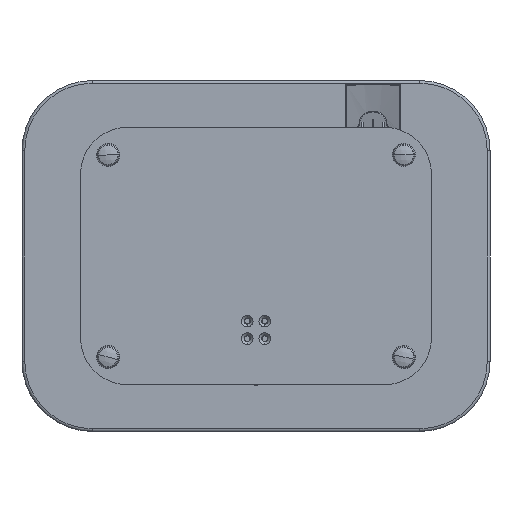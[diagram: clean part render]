
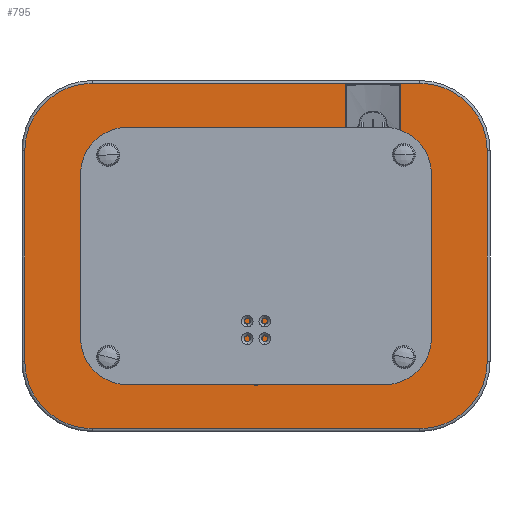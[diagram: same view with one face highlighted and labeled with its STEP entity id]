
A CAD part, front view. The second image highlights one B-rep face of the part: STEP entity #795.
In plain terms, the highlighted planar face has unit normal (0, -1, 0).
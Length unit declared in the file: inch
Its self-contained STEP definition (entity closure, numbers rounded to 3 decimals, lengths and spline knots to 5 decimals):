
#350 = DIRECTION ( 'NONE',  ( 0., 1., 0. ) ) ;
#601 = CARTESIAN_POINT ( 'NONE',  ( 9.88189, 0., 4.5 ) ) ;
#684 = CARTESIAN_POINT ( 'NONE',  ( 7., 0., 7.38189 ) ) ;
#693 = CARTESIAN_POINT ( 'NONE',  ( 0., 0., 0. ) ) ;
#795 = ADVANCED_FACE ( 'NONE', ( #11176 ), #825, .T. ) ;
#825 = PLANE ( 'NONE',  #10194 ) ;
#1071 = VERTEX_POINT ( 'NONE', #1568 ) ;
#1228 = CARTESIAN_POINT ( 'NONE',  ( -9.88189, 0., -4.5 ) ) ;
#1308 = VERTEX_POINT ( 'NONE', #10988 ) ;
#1488 = CARTESIAN_POINT ( 'NONE',  ( -7., 0., -4.5 ) ) ;
#1511 = ORIENTED_EDGE ( 'NONE', *, *, #10014, .F. ) ;
#1514 = EDGE_CURVE ( 'NONE', #1071, #1308, #6328, .T. ) ;
#1568 = CARTESIAN_POINT ( 'NONE',  ( -9.88189, 0., -4.5 ) ) ;
#1732 = ORIENTED_EDGE ( 'NONE', *, *, #10317, .F. ) ;
#1747 = AXIS2_PLACEMENT_3D ( 'NONE', #12894, #7827, #2857 ) ;
#1754 = AXIS2_PLACEMENT_3D ( 'NONE', #1488, #350, #11662 ) ;
#1879 = ORIENTED_EDGE ( 'NONE', *, *, #4152, .F. ) ;
#2090 = VERTEX_POINT ( 'NONE', #10931 ) ;
#2383 = CIRCLE ( 'NONE', #1754, 2.88189 ) ;
#2784 = ORIENTED_EDGE ( 'NONE', *, *, #12539, .F. ) ;
#2857 = DIRECTION ( 'NONE',  ( 0., 0., 1. ) ) ;
#3127 = AXIS2_PLACEMENT_3D ( 'NONE', #5498, #9608, #8577 ) ;
#3237 = EDGE_LOOP ( 'NONE', ( #12982, #6897, #1879, #2784, #1511, #1732, #9734, #6718 ) ) ;
#3566 = DIRECTION ( 'NONE',  ( -1., 0., 0. ) ) ;
#3628 = LINE ( 'NONE', #4576, #4393 ) ;
#4014 = DIRECTION ( 'NONE',  ( 0., 0., -1. ) ) ;
#4102 = CIRCLE ( 'NONE', #4530, 2.88189 ) ;
#4152 = EDGE_CURVE ( 'NONE', #2090, #10831, #3628, .T. ) ;
#4393 = VECTOR ( 'NONE', #3566, 39.37008 ) ;
#4482 = DIRECTION ( 'NONE',  ( 0., 0., 1. ) ) ;
#4530 = AXIS2_PLACEMENT_3D ( 'NONE', #4640, #6727, #4845 ) ;
#4576 = CARTESIAN_POINT ( 'NONE',  ( 7., 0., -7.38189 ) ) ;
#4640 = CARTESIAN_POINT ( 'NONE',  ( 7., 0., -4.5 ) ) ;
#4845 = DIRECTION ( 'NONE',  ( 0., 0., 1. ) ) ;
#4989 = DIRECTION ( 'NONE',  ( 0., 0., -1. ) ) ;
#5142 = EDGE_CURVE ( 'NONE', #1308, #5676, #12399, .T. ) ;
#5498 = CARTESIAN_POINT ( 'NONE',  ( -7., 0., 4.5 ) ) ;
#5676 = VERTEX_POINT ( 'NONE', #8924 ) ;
#5738 = CARTESIAN_POINT ( 'NONE',  ( -7., 0., -7.38189 ) ) ;
#5817 = CIRCLE ( 'NONE', #1747, 2.88189 ) ;
#6328 = LINE ( 'NONE', #1228, #12388 ) ;
#6718 = ORIENTED_EDGE ( 'NONE', *, *, #5142, .F. ) ;
#6727 = DIRECTION ( 'NONE',  ( 0., 1., 0. ) ) ;
#6897 = ORIENTED_EDGE ( 'NONE', *, *, #12395, .F. ) ;
#7750 = EDGE_CURVE ( 'NONE', #5676, #11209, #12629, .T. ) ;
#7827 = DIRECTION ( 'NONE',  ( 0., 1., 0. ) ) ;
#8078 = VECTOR ( 'NONE', #9588, 39.37008 ) ;
#8355 = CARTESIAN_POINT ( 'NONE',  ( -7., 0., 7.38189 ) ) ;
#8366 = LINE ( 'NONE', #12296, #8407 ) ;
#8407 = VECTOR ( 'NONE', #4014, 39.37008 ) ;
#8577 = DIRECTION ( 'NONE',  ( 0., 0., 1. ) ) ;
#8924 = CARTESIAN_POINT ( 'NONE',  ( -7., 0., 7.38189 ) ) ;
#9588 = DIRECTION ( 'NONE',  ( 1., 0., 0. ) ) ;
#9608 = DIRECTION ( 'NONE',  ( 0., 1., 0. ) ) ;
#9734 = ORIENTED_EDGE ( 'NONE', *, *, #7750, .F. ) ;
#10014 = EDGE_CURVE ( 'NONE', #12896, #11587, #8366, .T. ) ;
#10194 = AXIS2_PLACEMENT_3D ( 'NONE', #693, #12063, #4989 ) ;
#10317 = EDGE_CURVE ( 'NONE', #11209, #12896, #5817, .T. ) ;
#10831 = VERTEX_POINT ( 'NONE', #5738 ) ;
#10931 = CARTESIAN_POINT ( 'NONE',  ( 7., 0., -7.38189 ) ) ;
#10988 = CARTESIAN_POINT ( 'NONE',  ( -9.88189, 0., 4.5 ) ) ;
#11176 = FACE_OUTER_BOUND ( 'NONE', #3237, .T. ) ;
#11209 = VERTEX_POINT ( 'NONE', #684 ) ;
#11587 = VERTEX_POINT ( 'NONE', #11623 ) ;
#11623 = CARTESIAN_POINT ( 'NONE',  ( 9.88189, 0., -4.5 ) ) ;
#11662 = DIRECTION ( 'NONE',  ( 0., 0., 1. ) ) ;
#12063 = DIRECTION ( 'NONE',  ( 0., -1., 0. ) ) ;
#12296 = CARTESIAN_POINT ( 'NONE',  ( 9.88189, 0., 4.5 ) ) ;
#12388 = VECTOR ( 'NONE', #4482, 39.37008 ) ;
#12395 = EDGE_CURVE ( 'NONE', #10831, #1071, #2383, .T. ) ;
#12399 = CIRCLE ( 'NONE', #3127, 2.88189 ) ;
#12539 = EDGE_CURVE ( 'NONE', #11587, #2090, #4102, .T. ) ;
#12629 = LINE ( 'NONE', #8355, #8078 ) ;
#12894 = CARTESIAN_POINT ( 'NONE',  ( 7., 0., 4.5 ) ) ;
#12896 = VERTEX_POINT ( 'NONE', #601 ) ;
#12982 = ORIENTED_EDGE ( 'NONE', *, *, #1514, .F. ) ;
